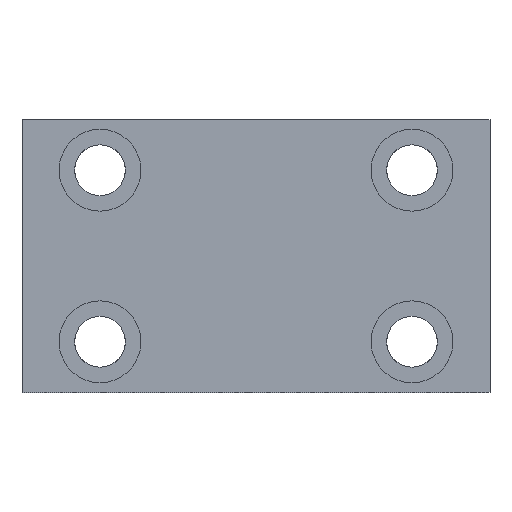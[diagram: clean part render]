
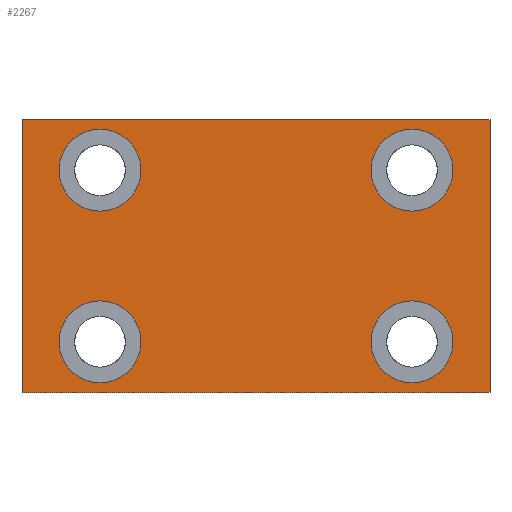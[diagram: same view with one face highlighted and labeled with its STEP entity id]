
A CAD part, front view. The second image highlights one B-rep face of the part: STEP entity #2267.
In plain terms, the highlighted planar face has unit normal (0, -1, 0).
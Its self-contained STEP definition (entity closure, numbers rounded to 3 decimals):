
#82 = CARTESIAN_POINT ( 'NONE',  ( 0., 0., 0. ) ) ;
#173 = EDGE_CURVE ( 'NONE', #2956, #3595, #2006, .T. ) ;
#264 = CARTESIAN_POINT ( 'NONE',  ( 20., 0., -5.75 ) ) ;
#368 = CIRCLE ( 'NONE', #2044, 5.25 ) ;
#371 = VECTOR ( 'NONE', #815, 1000. ) ;
#432 = ORIENTED_EDGE ( 'NONE', *, *, #3865, .F. ) ;
#496 = AXIS2_PLACEMENT_3D ( 'NONE', #4026, #4016, #505 ) ;
#505 = DIRECTION ( 'NONE',  ( 0., 0., -1. ) ) ;
#509 = LINE ( 'NONE', #2772, #2196 ) ;
#596 = VERTEX_POINT ( 'NONE', #1381 ) ;
#605 = VECTOR ( 'NONE', #3690, 1000. ) ;
#623 = EDGE_LOOP ( 'NONE', ( #2906, #1745, #2175, #3814 ) ) ;
#638 = CIRCLE ( 'NONE', #3291, 5.25 ) ;
#667 = LINE ( 'NONE', #1521, #3131 ) ;
#815 = DIRECTION ( 'NONE',  ( 0., 0., 1. ) ) ;
#861 = EDGE_CURVE ( 'NONE', #3595, #2956, #916, .T. ) ;
#904 = VERTEX_POINT ( 'NONE', #1914 ) ;
#915 = DIRECTION ( 'NONE',  ( 0., 0., -1. ) ) ;
#916 = CIRCLE ( 'NONE', #3969, 5.25 ) ;
#924 = DIRECTION ( 'NONE',  ( 0., -1., 0. ) ) ;
#1004 = CIRCLE ( 'NONE', #4154, 5.25 ) ;
#1066 = EDGE_LOOP ( 'NONE', ( #1802, #3083 ) ) ;
#1082 = DIRECTION ( 'NONE',  ( 0., -1., 0. ) ) ;
#1087 = CIRCLE ( 'NONE', #496, 5.25 ) ;
#1136 = CARTESIAN_POINT ( 'NONE',  ( -20., 0., 5.75 ) ) ;
#1141 = EDGE_CURVE ( 'NONE', #1302, #1656, #2124, .T. ) ;
#1209 = DIRECTION ( 'NONE',  ( 0., 0., -1. ) ) ;
#1230 = DIRECTION ( 'NONE',  ( 0., -1., 0. ) ) ;
#1243 = CARTESIAN_POINT ( 'NONE',  ( 20., 0., -11. ) ) ;
#1271 = FACE_OUTER_BOUND ( 'NONE', #623, .T. ) ;
#1285 = DIRECTION ( 'NONE',  ( 0., -1., 0. ) ) ;
#1289 = CARTESIAN_POINT ( 'NONE',  ( 20., 0., 11. ) ) ;
#1302 = VERTEX_POINT ( 'NONE', #2844 ) ;
#1310 = DIRECTION ( 'NONE',  ( 0., -1., 0. ) ) ;
#1333 = DIRECTION ( 'NONE',  ( 0., 0., -1. ) ) ;
#1365 = LINE ( 'NONE', #1442, #371 ) ;
#1380 = DIRECTION ( 'NONE',  ( -1., 0., 0. ) ) ;
#1381 = CARTESIAN_POINT ( 'NONE',  ( -20., 0., 16.25 ) ) ;
#1420 = CARTESIAN_POINT ( 'NONE',  ( -30., 0., -17.5 ) ) ;
#1442 = CARTESIAN_POINT ( 'NONE',  ( -30., 0., -17.5 ) ) ;
#1468 = EDGE_CURVE ( 'NONE', #3116, #3648, #1087, .T. ) ;
#1521 = CARTESIAN_POINT ( 'NONE',  ( -30., 0., 17.5 ) ) ;
#1545 = ORIENTED_EDGE ( 'NONE', *, *, #1595, .F. ) ;
#1564 = VERTEX_POINT ( 'NONE', #4179 ) ;
#1595 = EDGE_CURVE ( 'NONE', #1825, #596, #638, .T. ) ;
#1607 = VERTEX_POINT ( 'NONE', #1420 ) ;
#1653 = AXIS2_PLACEMENT_3D ( 'NONE', #82, #1919, #3519 ) ;
#1656 = VERTEX_POINT ( 'NONE', #3088 ) ;
#1688 = EDGE_LOOP ( 'NONE', ( #3883, #432 ) ) ;
#1745 = ORIENTED_EDGE ( 'NONE', *, *, #2149, .F. ) ;
#1775 = PLANE ( 'NONE',  #1653 ) ;
#1802 = ORIENTED_EDGE ( 'NONE', *, *, #173, .F. ) ;
#1825 = VERTEX_POINT ( 'NONE', #1136 ) ;
#1914 = CARTESIAN_POINT ( 'NONE',  ( 30., 0., -17.5 ) ) ;
#1919 = DIRECTION ( 'NONE',  ( 0., 1., 0. ) ) ;
#2006 = CIRCLE ( 'NONE', #2566, 5.25 ) ;
#2034 = FACE_BOUND ( 'NONE', #1066, .T. ) ;
#2044 = AXIS2_PLACEMENT_3D ( 'NONE', #3500, #924, #915 ) ;
#2065 = AXIS2_PLACEMENT_3D ( 'NONE', #2715, #2678, #2664 ) ;
#2085 = DIRECTION ( 'NONE',  ( 0., 0., -1. ) ) ;
#2124 = CIRCLE ( 'NONE', #2065, 5.25 ) ;
#2134 = DIRECTION ( 'NONE',  ( 0., -1., 0. ) ) ;
#2145 = CARTESIAN_POINT ( 'NONE',  ( 20., 0., 11. ) ) ;
#2146 = FACE_BOUND ( 'NONE', #1688, .T. ) ;
#2149 = EDGE_CURVE ( 'NONE', #1564, #2680, #667, .T. ) ;
#2175 = ORIENTED_EDGE ( 'NONE', *, *, #2259, .F. ) ;
#2196 = VECTOR ( 'NONE', #1380, 1000. ) ;
#2259 = EDGE_CURVE ( 'NONE', #1607, #1564, #1365, .T. ) ;
#2267 = ADVANCED_FACE ( 'NONE', ( #2146, #3786, #2034, #2918, #1271 ), #1775, .F. ) ;
#2368 = ORIENTED_EDGE ( 'NONE', *, *, #3323, .F. ) ;
#2431 = EDGE_CURVE ( 'NONE', #904, #1607, #509, .T. ) ;
#2437 = EDGE_CURVE ( 'NONE', #2680, #904, #4006, .T. ) ;
#2438 = CARTESIAN_POINT ( 'NONE',  ( 20., 0., 5.75 ) ) ;
#2441 = CARTESIAN_POINT ( 'NONE',  ( 20., 0., 16.25 ) ) ;
#2492 = CARTESIAN_POINT ( 'NONE',  ( -20., 0., -11. ) ) ;
#2516 = EDGE_LOOP ( 'NONE', ( #4142, #2923 ) ) ;
#2566 = AXIS2_PLACEMENT_3D ( 'NONE', #1289, #1310, #1333 ) ;
#2611 = DIRECTION ( 'NONE',  ( 0., 0., -1. ) ) ;
#2664 = DIRECTION ( 'NONE',  ( 0., 0., -1. ) ) ;
#2678 = DIRECTION ( 'NONE',  ( 0., -1., 0. ) ) ;
#2680 = VERTEX_POINT ( 'NONE', #2786 ) ;
#2715 = CARTESIAN_POINT ( 'NONE',  ( -20., 0., -11. ) ) ;
#2772 = CARTESIAN_POINT ( 'NONE',  ( -30., 0., -17.5 ) ) ;
#2786 = CARTESIAN_POINT ( 'NONE',  ( 30., 0., 17.5 ) ) ;
#2844 = CARTESIAN_POINT ( 'NONE',  ( -20., 0., -16.25 ) ) ;
#2906 = ORIENTED_EDGE ( 'NONE', *, *, #2437, .F. ) ;
#2918 = FACE_BOUND ( 'NONE', #3236, .T. ) ;
#2923 = ORIENTED_EDGE ( 'NONE', *, *, #1468, .F. ) ;
#2956 = VERTEX_POINT ( 'NONE', #2438 ) ;
#3059 = CARTESIAN_POINT ( 'NONE',  ( -20., 0., 11. ) ) ;
#3083 = ORIENTED_EDGE ( 'NONE', *, *, #861, .F. ) ;
#3088 = CARTESIAN_POINT ( 'NONE',  ( -20., 0., -5.75 ) ) ;
#3116 = VERTEX_POINT ( 'NONE', #264 ) ;
#3131 = VECTOR ( 'NONE', #4115, 1000. ) ;
#3198 = CARTESIAN_POINT ( 'NONE',  ( 20., 0., -16.25 ) ) ;
#3236 = EDGE_LOOP ( 'NONE', ( #1545, #2368 ) ) ;
#3291 = AXIS2_PLACEMENT_3D ( 'NONE', #3059, #1082, #3382 ) ;
#3323 = EDGE_CURVE ( 'NONE', #596, #1825, #368, .T. ) ;
#3382 = DIRECTION ( 'NONE',  ( 0., 0., -1. ) ) ;
#3455 = EDGE_CURVE ( 'NONE', #3648, #3116, #3902, .T. ) ;
#3500 = CARTESIAN_POINT ( 'NONE',  ( -20., 0., 11. ) ) ;
#3519 = DIRECTION ( 'NONE',  ( 0., 0., 1. ) ) ;
#3595 = VERTEX_POINT ( 'NONE', #2441 ) ;
#3648 = VERTEX_POINT ( 'NONE', #3198 ) ;
#3690 = DIRECTION ( 'NONE',  ( 0., 0., -1. ) ) ;
#3786 = FACE_BOUND ( 'NONE', #2516, .T. ) ;
#3814 = ORIENTED_EDGE ( 'NONE', *, *, #2431, .F. ) ;
#3855 = AXIS2_PLACEMENT_3D ( 'NONE', #1243, #1230, #1209 ) ;
#3865 = EDGE_CURVE ( 'NONE', #1656, #1302, #1004, .T. ) ;
#3883 = ORIENTED_EDGE ( 'NONE', *, *, #1141, .F. ) ;
#3902 = CIRCLE ( 'NONE', #3855, 5.25 ) ;
#3969 = AXIS2_PLACEMENT_3D ( 'NONE', #2145, #2134, #2085 ) ;
#3996 = CARTESIAN_POINT ( 'NONE',  ( 30., 0., -17.5 ) ) ;
#4006 = LINE ( 'NONE', #3996, #605 ) ;
#4016 = DIRECTION ( 'NONE',  ( 0., -1., 0. ) ) ;
#4026 = CARTESIAN_POINT ( 'NONE',  ( 20., 0., -11. ) ) ;
#4115 = DIRECTION ( 'NONE',  ( 1., 0., 0. ) ) ;
#4142 = ORIENTED_EDGE ( 'NONE', *, *, #3455, .F. ) ;
#4154 = AXIS2_PLACEMENT_3D ( 'NONE', #2492, #1285, #2611 ) ;
#4179 = CARTESIAN_POINT ( 'NONE',  ( -30., 0., 17.5 ) ) ;
